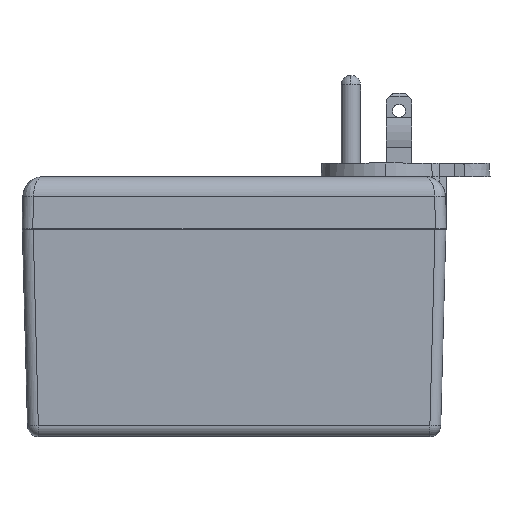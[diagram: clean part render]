
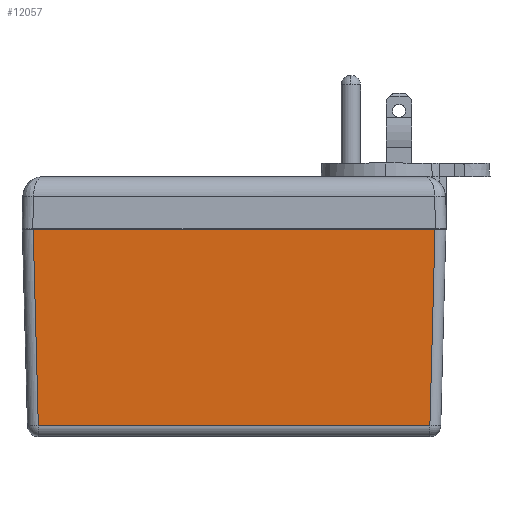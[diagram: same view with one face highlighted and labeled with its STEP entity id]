
A CAD part, top view. The second image highlights one B-rep face of the part: STEP entity #12057.
In plain terms, the highlighted planar face has unit normal (0, -0.026, 1).
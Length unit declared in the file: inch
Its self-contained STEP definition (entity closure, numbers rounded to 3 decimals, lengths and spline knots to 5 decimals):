
#89 = FACE_OUTER_BOUND ( 'NONE', #7319, .T. ) ;
#1605 = CARTESIAN_POINT ( 'NONE',  ( 1.94679, -0.10471, 1.11326 ) ) ;
#1979 = CARTESIAN_POINT ( 'NONE',  ( -2.0545, -1.90275, 1.06617 ) ) ;
#2060 = DIRECTION ( 'NONE',  ( 1., 0., 0. ) ) ;
#2532 = DIRECTION ( 'NONE',  ( 1., 0., 0. ) ) ;
#2534 = CARTESIAN_POINT ( 'NONE',  ( -2.0545, 0., 1.116 ) ) ;
#2536 = DIRECTION ( 'NONE',  ( 0.026, -0.999, -0.026 ) ) ;
#2537 = CARTESIAN_POINT ( 'NONE',  ( -1.94961, 0.00274, 1.11607 ) ) ;
#2538 = DIRECTION ( 'NONE',  ( 0.026, 0.999, 0.026 ) ) ;
#6364 = CARTESIAN_POINT ( 'NONE',  ( 1.89971, -1.90275, 1.06617 ) ) ;
#6404 = CARTESIAN_POINT ( 'NONE',  ( -1.94954, 0., 1.116 ) ) ;
#6406 = CARTESIAN_POINT ( 'NONE',  ( -1.89971, -1.90275, 1.06617 ) ) ;
#6412 = CARTESIAN_POINT ( 'NONE',  ( 1.94954, 0., 1.116 ) ) ;
#7319 = EDGE_LOOP ( 'NONE', ( #18873, #18872, #18871, #18869 ) ) ;
#8947 = DIRECTION ( 'NONE',  ( 0., -1., -0.026 ) ) ;
#8948 = DIRECTION ( 'NONE',  ( 0., -0.026, 1. ) ) ;
#8950 = PLANE ( 'NONE',  #14095 ) ;
#8951 = CARTESIAN_POINT ( 'NONE',  ( -2.0545, 0., 1.116 ) ) ;
#9869 = VECTOR ( 'NONE', #2532, 39.37008 ) ;
#9870 = LINE ( 'NONE', #2534, #9869 ) ;
#9871 = VECTOR ( 'NONE', #2536, 39.37008 ) ;
#9872 = LINE ( 'NONE', #2537, #9871 ) ;
#9873 = VECTOR ( 'NONE', #2538, 39.37008 ) ;
#9874 = LINE ( 'NONE', #1605, #9873 ) ;
#9898 = LINE ( 'NONE', #1979, #9902 ) ;
#9902 = VECTOR ( 'NONE', #2060, 39.37008 ) ;
#12057 = ADVANCED_FACE ( 'NONE', ( #89 ), #8950, .T. ) ;
#14095 = AXIS2_PLACEMENT_3D ( 'NONE', #8951, #8948, #8947 ) ;
#17130 = VERTEX_POINT ( 'NONE', #6412 ) ;
#17151 = VERTEX_POINT ( 'NONE', #6406 ) ;
#17154 = VERTEX_POINT ( 'NONE', #6404 ) ;
#17196 = VERTEX_POINT ( 'NONE', #6364 ) ;
#18869 = ORIENTED_EDGE ( 'NONE', *, *, #20515, .T. ) ;
#18871 = ORIENTED_EDGE ( 'NONE', *, *, #20516, .F. ) ;
#18872 = ORIENTED_EDGE ( 'NONE', *, *, #20514, .T. ) ;
#18873 = ORIENTED_EDGE ( 'NONE', *, *, #20500, .T. ) ;
#20500 = EDGE_CURVE ( 'NONE', #17151, #17196, #9898, .T. ) ;
#20514 = EDGE_CURVE ( 'NONE', #17196, #17130, #9874, .T. ) ;
#20515 = EDGE_CURVE ( 'NONE', #17154, #17151, #9872, .T. ) ;
#20516 = EDGE_CURVE ( 'NONE', #17154, #17130, #9870, .T. ) ;
